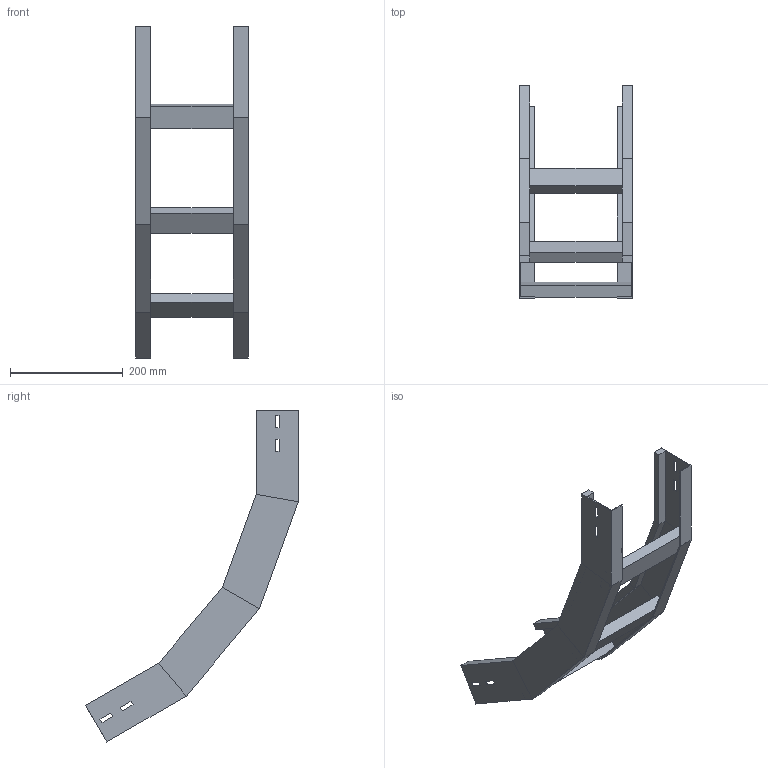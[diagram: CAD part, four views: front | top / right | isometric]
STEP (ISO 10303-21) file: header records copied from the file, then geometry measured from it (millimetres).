
FILE_DESCRIPTION (( 'STEP AP214' ), '1' );
FILE_NAME ('A2X40B5C200XX.step', '2025-03-20T10:17:10', ( '' ), ( '' ), 'SwSTEP 2.0', 'SolidWorks 2023', '' );
FILE_SCHEMA (( 'AUTOMOTIVE_DESIGN' ));
Length unit declared in the file: millimetre
Products named in the file (3): A2X40B5C200XX; LONGH.SALITA_60°_H75_R500; TRAVERSINO_200
Assembly tree (5 placements, depth 2):
  A2X40B5C200XX
    LONGH.SALITA_60°_H75_R500  x2
    TRAVERSINO_200  x3
Bounding box: 200 x 377.79 x 589.4 mm (x, y, z)
Volume: 1006410 mm3; surface area: 403791.6 mm2
Topology: 5 solids, 5 shells, 118 faces, 276 edges, 168 vertices
Faces by surface type: plane 118
Entity records: 1672 total; most frequent: CARTESIAN_POINT 276, ORIENTED_EDGE 264, DIRECTION 260, VECTOR 132, EDGE_CURVE 132, LINE 132, VERTEX_POINT 80, AXIS2_PLACEMENT_3D 64
